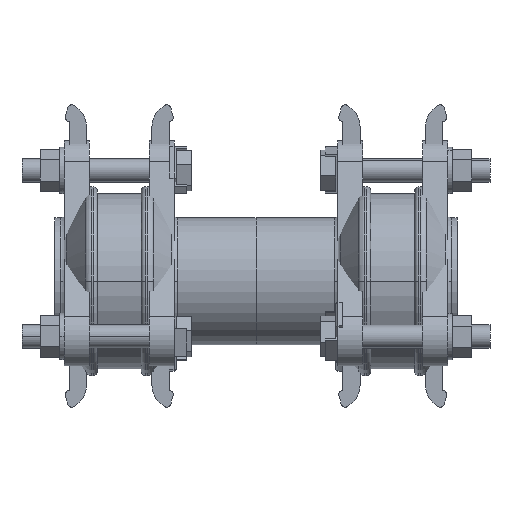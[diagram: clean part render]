
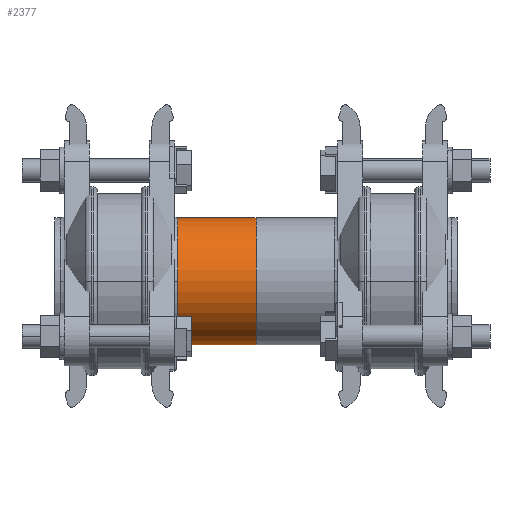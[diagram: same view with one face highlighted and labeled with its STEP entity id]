
A CAD part, front view. The second image highlights one B-rep face of the part: STEP entity #2377.
In plain terms, the highlighted cylindrical face has radius 33 mm (diameter 66 mm), a partial arc.
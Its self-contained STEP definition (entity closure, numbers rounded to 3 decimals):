
#2377=ADVANCED_FACE('',(#4314),#4315,.T.);
#4314=FACE_OUTER_BOUND('',#6309,.T.);
#4315=CYLINDRICAL_SURFACE('',#6310,33.0);
#6309=EDGE_LOOP('',(#10817,#10818,#10819,#10820,#10821));
#6310=AXIS2_PLACEMENT_3D('',#10822,#10823,#10824);
#10817=ORIENTED_EDGE('',*,*,#11547,.F.);
#10818=ORIENTED_EDGE('',*,*,#12373,.T.);
#10819=ORIENTED_EDGE('',*,*,#11894,.T.);
#10820=ORIENTED_EDGE('',*,*,#11548,.F.);
#10821=ORIENTED_EDGE('',*,*,#11157,.F.);
#10822=CARTESIAN_POINT('',(-1.777,0.,0.));
#10823=DIRECTION('',(1.0,0.,0.));
#10824=DIRECTION('',(0.,0.,1.0));
#11157=EDGE_CURVE('',#13152,#13153,#13154,.T.);
#11547=EDGE_CURVE('',#13784,#13152,#13785,.T.);
#11548=EDGE_CURVE('',#13153,#13786,#13787,.T.);
#11894=EDGE_CURVE('',#14296,#13786,#14297,.T.);
#12373=EDGE_CURVE('',#13784,#14296,#14908,.T.);
#13152=VERTEX_POINT('',#15858);
#13153=VERTEX_POINT('',#15859);
#13154=CIRCLE('',#15860,33.0);
#13784=VERTEX_POINT('',#16712);
#13785=LINE('',#16713,#16714);
#13786=VERTEX_POINT('',#16715);
#13787=LINE('',#16716,#16717);
#14296=VERTEX_POINT('',#17404);
#14297=CIRCLE('',#17405,33.0);
#14908=CIRCLE('',#18214,33.0);
#15858=CARTESIAN_POINT('',(18.5,0.,33.0));
#15859=CARTESIAN_POINT('',(18.5,0.,-33.0));
#15860=AXIS2_PLACEMENT_3D('',#18972,#18973,#18974);
#16712=CARTESIAN_POINT('',(-22.053,0.,33.0));
#16713=CARTESIAN_POINT('',(-1.777,0.,33.0));
#16714=VECTOR('',#19416,1.0);
#16715=CARTESIAN_POINT('',(-22.053,0.,-33.0));
#16716=CARTESIAN_POINT('',(-1.777,0.,-33.0));
#16717=VECTOR('',#19417,1.0);
#17404=CARTESIAN_POINT('',(-22.053,-33.,0.));
#17405=AXIS2_PLACEMENT_3D('',#19806,#19807,#19808);
#18214=AXIS2_PLACEMENT_3D('',#20295,#20296,#20297);
#18972=CARTESIAN_POINT('',(18.5,0.,0.));
#18973=DIRECTION('',(1.0,0.,0.));
#18974=DIRECTION('',(0.,0.,1.0));
#19416=DIRECTION('',(1.0,0.,0.));
#19417=DIRECTION('',(-1.0,0.,0.));
#19806=CARTESIAN_POINT('',(-22.053,0.,0.));
#19807=DIRECTION('',(1.0,0.,0.));
#19808=DIRECTION('',(0.,0.,1.0));
#20295=CARTESIAN_POINT('',(-22.053,0.,0.));
#20296=DIRECTION('',(1.0,0.,0.));
#20297=DIRECTION('',(0.,0.,1.0));
